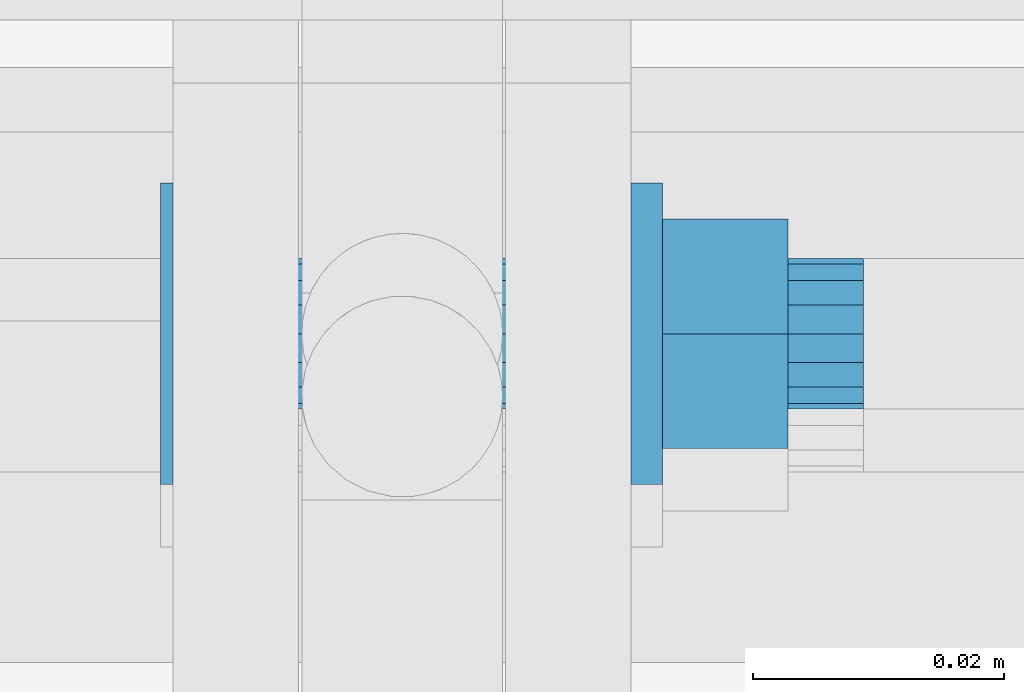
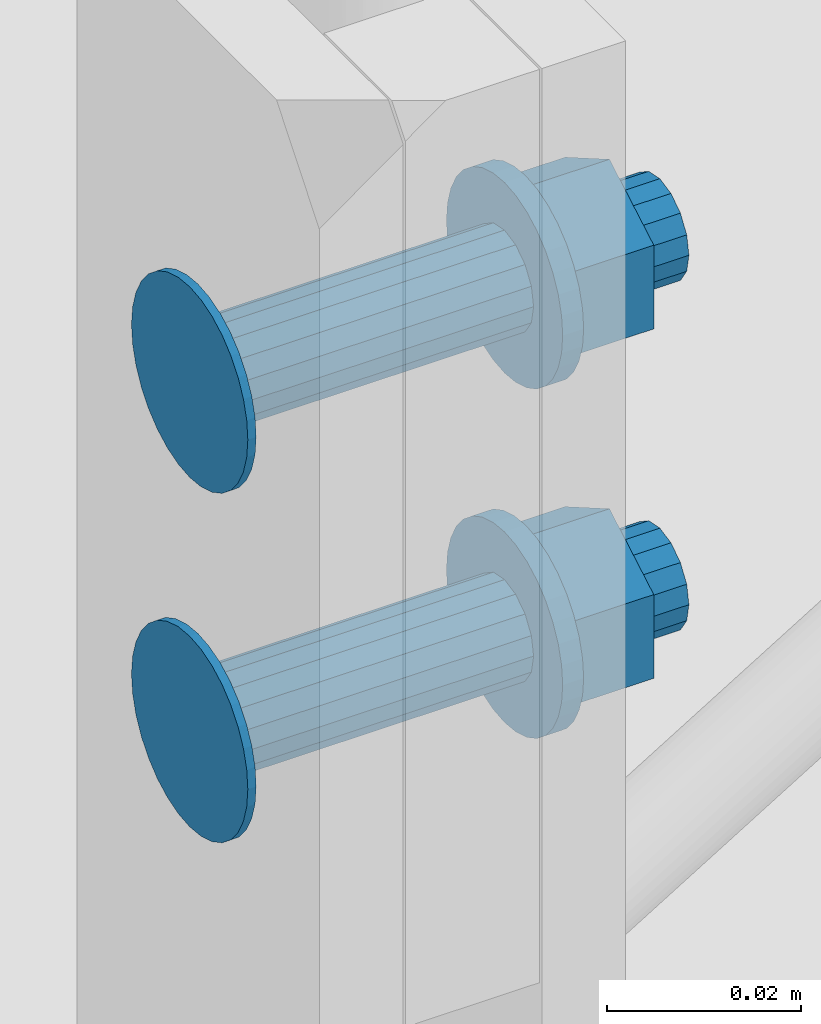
# One storey, part 89 of 98: 1 mechanical fastener.
"""IFC2X3 building model written with IfcOpenShell, lengths in millimetres."""

from ifc_helpers import new_model, entity, si_unit, converted_unit, origin_with_axes, place, context, project, spatial, faceted_brep, element, save


model = new_model("IFC2X3")

# Units and contexts
model_context = context("Model", 3, precision=1e-09, world=origin_with_axes())
ifc_project = project(units=[si_unit("LENGTHUNIT", "METRE", prefix="MILLI"), si_unit("AREAUNIT", "SQUARE_METRE"), si_unit("VOLUMEUNIT", "CUBIC_METRE"), converted_unit("PLANEANGLEUNIT", "DEGREE", entity("IfcPlaneAngleMeasure", 0.01745329), si_unit("PLANEANGLEUNIT", "RADIAN"), dimensions=[0, 0, 0, 0, 0, 0, 0])], contexts=[model_context])

# Site, building, storey
site_placement = place(None, origin_with_axes())
site = spatial("IfcSite", under=ifc_project, at=site_placement, Name="Maybachstra?e 2, 71563 Affalterbach", CompositionType="ELEMENT")
building_placement = place(site_placement, origin_with_axes())
building = spatial("IfcBuilding", under=site, at=building_placement, Name="Struktur 1", CompositionType="ELEMENT")
storey_placement = place(building_placement, origin_with_axes())
storey = spatial("IfcBuildingStorey", under=building, at=storey_placement, Name="Default Storey", CompositionType="ELEMENT", Elevation=0.0)

# Mechanical fastener
mechanical_fastener_placement = place(None, origin_with_axes())
element("IfcMechanicalFastener", 1, at=mechanical_fastener_placement, inside=storey, ObjectType="-", NominalDiameter=12.0, NominalLength=55.0, context=model_context, shape_type="Brep", body=[
    faceted_brep([(11356.779157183, -52.0, 3663.682336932), (11355.779157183, -52.0, 3663.682336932), (11355.779157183, -51.769423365, 3661.341253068), (11356.779157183, -51.769423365, 3661.341253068), (11355.779157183, -51.08655439, 3659.090135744), (11356.779157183, -51.08655439, 3659.090135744), (11355.779157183, -49.977635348, 3657.015494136), (11356.779157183, -49.977635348, 3657.015494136), (11355.779157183, -48.485281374, 3655.197055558), (11356.779157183, -48.485281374, 3655.197055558), (11355.779157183, -46.666842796, 3653.704701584), (11356.779157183, -46.666842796, 3653.704701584), (11355.779157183, -44.592201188, 3652.595782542), (11356.779157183, -44.592201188, 3652.595782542), (11355.779157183, -42.341083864, 3651.912913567), (11356.779157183, -42.341083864, 3651.912913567), (11355.779157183, -40.0, 3651.682336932), (11356.779157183, -40.0, 3651.682336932), (11355.779157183, -37.658916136, 3651.912913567), (11356.779157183, -37.658916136, 3651.912913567), (11355.779157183, -35.407798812, 3652.595782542), (11356.779157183, -35.407798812, 3652.595782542), (11355.779157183, -33.333157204, 3653.704701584), (11356.779157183, -33.333157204, 3653.704701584), (11355.779157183, -31.514718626, 3655.197055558), (11356.779157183, -31.514718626, 3655.197055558), (11355.779157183, -30.022364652, 3657.015494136), (11356.779157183, -30.022364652, 3657.015494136), (11355.779157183, -28.91344561, 3659.090135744), (11356.779157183, -28.91344561, 3659.090135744), (11355.779157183, -28.230576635, 3661.341253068), (11356.779157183, -28.230576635, 3661.341253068), (11355.779157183, -28.0, 3663.682336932), (11356.779157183, -28.0, 3663.682336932), (11355.779157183, -28.230576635, 3666.023420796), (11356.779157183, -28.230576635, 3666.023420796), (11355.779157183, -28.91344561, 3668.27453812), (11356.779157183, -28.91344561, 3668.27453812), (11355.779157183, -30.022364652, 3670.349179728), (11356.779157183, -30.022364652, 3670.349179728), (11355.779157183, -31.514718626, 3672.167618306), (11356.779157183, -31.514718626, 3672.167618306), (11355.779157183, -33.333157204, 3673.65997228), (11356.779157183, -33.333157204, 3673.65997228), (11355.779157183, -35.407798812, 3674.768891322), (11356.779157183, -35.407798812, 3674.768891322), (11355.779157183, -37.658916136, 3675.451760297), (11356.779157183, -37.658916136, 3675.451760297), (11355.779157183, -40.0, 3675.682336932), (11356.779157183, -40.0, 3675.682336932), (11355.779157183, -42.341083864, 3675.451760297), (11356.779157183, -42.341083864, 3675.451760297), (11355.779157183, -44.592201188, 3674.768891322), (11356.779157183, -44.592201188, 3674.768891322), (11355.779157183, -46.666842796, 3673.65997228), (11356.779157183, -46.666842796, 3673.65997228), (11355.779157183, -48.485281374, 3672.167618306), (11356.779157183, -48.485281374, 3672.167618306), (11355.779157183, -49.977635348, 3670.349179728), (11356.779157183, -49.977635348, 3670.349179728), (11355.779157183, -51.08655439, 3668.27453812), (11356.779157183, -51.08655439, 3668.27453812), (11355.779157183, -51.769423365, 3666.023420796), (11356.779157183, -51.769423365, 3666.023420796)], [[[0, 1, 2, 3]], [[3, 2, 4, 5]], [[5, 4, 6, 7]], [[7, 6, 8, 9]], [[9, 8, 10, 11]], [[11, 10, 12, 13]], [[13, 12, 14, 15]], [[15, 14, 16, 17]], [[17, 16, 18, 19]], [[19, 18, 20, 21]], [[21, 20, 22, 23]], [[23, 22, 24, 25]], [[25, 24, 26, 27]], [[27, 26, 28, 29]], [[29, 28, 30, 31]], [[31, 30, 32, 33]], [[33, 32, 34, 35]], [[35, 34, 36, 37]], [[37, 36, 38, 39]], [[39, 38, 40, 41]], [[41, 40, 42, 43]], [[43, 42, 44, 45]], [[45, 44, 46, 47]], [[47, 46, 48, 49]], [[49, 48, 50, 51]], [[51, 50, 52, 53]], [[53, 52, 54, 55]], [[55, 54, 56, 57]], [[57, 56, 58, 59]], [[59, 58, 60, 61]], [[61, 60, 62, 63]], [[63, 62, 1, 0]], [[2, 1, 62, 60, 58, 56, 54, 52, 50, 48, 46, 44, 42, 40, 38, 36, 34, 32, 30, 28, 26, 24, 22, 20, 18, 16, 14, 12, 10, 8, 6, 4]], [[63, 0, 3, 5, 7, 9, 11, 13, 15, 17, 19, 21, 23, 25, 27, 29, 31, 33, 35, 37, 39, 41, 43, 45, 47, 49, 51, 53, 55, 57, 59, 61]]]),
    faceted_brep([(11356.779157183, -52.0, 3619.682336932), (11355.779157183, -52.0, 3619.682336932), (11355.779157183, -51.769423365, 3617.341253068), (11356.779157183, -51.769423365, 3617.341253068), (11355.779157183, -51.08655439, 3615.090135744), (11356.779157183, -51.08655439, 3615.090135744), (11355.779157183, -49.977635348, 3613.015494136), (11356.779157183, -49.977635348, 3613.015494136), (11355.779157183, -48.485281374, 3611.197055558), (11356.779157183, -48.485281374, 3611.197055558), (11355.779157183, -46.666842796, 3609.704701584), (11356.779157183, -46.666842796, 3609.704701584), (11355.779157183, -44.592201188, 3608.595782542), (11356.779157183, -44.592201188, 3608.595782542), (11355.779157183, -42.341083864, 3607.912913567), (11356.779157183, -42.341083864, 3607.912913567), (11355.779157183, -40.0, 3607.682336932), (11356.779157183, -40.0, 3607.682336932), (11355.779157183, -37.658916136, 3607.912913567), (11356.779157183, -37.658916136, 3607.912913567), (11355.779157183, -35.407798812, 3608.595782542), (11356.779157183, -35.407798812, 3608.595782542), (11355.779157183, -33.333157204, 3609.704701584), (11356.779157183, -33.333157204, 3609.704701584), (11355.779157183, -31.514718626, 3611.197055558), (11356.779157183, -31.514718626, 3611.197055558), (11355.779157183, -30.022364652, 3613.015494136), (11356.779157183, -30.022364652, 3613.015494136), (11355.779157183, -28.91344561, 3615.090135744), (11356.779157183, -28.91344561, 3615.090135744), (11355.779157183, -28.230576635, 3617.341253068), (11356.779157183, -28.230576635, 3617.341253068), (11355.779157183, -28.0, 3619.682336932), (11356.779157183, -28.0, 3619.682336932), (11355.779157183, -28.230576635, 3622.023420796), (11356.779157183, -28.230576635, 3622.023420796), (11355.779157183, -28.91344561, 3624.27453812), (11356.779157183, -28.91344561, 3624.27453812), (11355.779157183, -30.022364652, 3626.349179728), (11356.779157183, -30.022364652, 3626.349179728), (11355.779157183, -31.514718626, 3628.167618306), (11356.779157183, -31.514718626, 3628.167618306), (11355.779157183, -33.333157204, 3629.65997228), (11356.779157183, -33.333157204, 3629.65997228), (11355.779157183, -35.407798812, 3630.768891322), (11356.779157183, -35.407798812, 3630.768891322), (11355.779157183, -37.658916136, 3631.451760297), (11356.779157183, -37.658916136, 3631.451760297), (11355.779157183, -40.0, 3631.682336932), (11356.779157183, -40.0, 3631.682336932), (11355.779157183, -42.341083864, 3631.451760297), (11356.779157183, -42.341083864, 3631.451760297), (11355.779157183, -44.592201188, 3630.768891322), (11356.779157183, -44.592201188, 3630.768891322), (11355.779157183, -46.666842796, 3629.65997228), (11356.779157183, -46.666842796, 3629.65997228), (11355.779157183, -48.485281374, 3628.167618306), (11356.779157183, -48.485281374, 3628.167618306), (11355.779157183, -49.977635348, 3626.349179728), (11356.779157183, -49.977635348, 3626.349179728), (11355.779157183, -51.08655439, 3624.27453812), (11356.779157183, -51.08655439, 3624.27453812), (11355.779157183, -51.769423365, 3622.023420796), (11356.779157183, -51.769423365, 3622.023420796)], [[[0, 1, 2, 3]], [[3, 2, 4, 5]], [[5, 4, 6, 7]], [[7, 6, 8, 9]], [[9, 8, 10, 11]], [[11, 10, 12, 13]], [[13, 12, 14, 15]], [[15, 14, 16, 17]], [[17, 16, 18, 19]], [[19, 18, 20, 21]], [[21, 20, 22, 23]], [[23, 22, 24, 25]], [[25, 24, 26, 27]], [[27, 26, 28, 29]], [[29, 28, 30, 31]], [[31, 30, 32, 33]], [[33, 32, 34, 35]], [[35, 34, 36, 37]], [[37, 36, 38, 39]], [[39, 38, 40, 41]], [[41, 40, 42, 43]], [[43, 42, 44, 45]], [[45, 44, 46, 47]], [[47, 46, 48, 49]], [[49, 48, 50, 51]], [[51, 50, 52, 53]], [[53, 52, 54, 55]], [[55, 54, 56, 57]], [[57, 56, 58, 59]], [[59, 58, 60, 61]], [[61, 60, 62, 63]], [[63, 62, 1, 0]], [[2, 1, 62, 60, 58, 56, 54, 52, 50, 48, 46, 44, 42, 40, 38, 36, 34, 32, 30, 28, 26, 24, 22, 20, 18, 16, 14, 12, 10, 8, 6, 4]], [[63, 0, 3, 5, 7, 9, 11, 13, 15, 17, 19, 21, 23, 25, 27, 29, 31, 33, 35, 37, 39, 41, 43, 45, 47, 49, 51, 53, 55, 57, 59, 61]]]),
    faceted_brep([(11393.279157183, -46.0, 3663.682336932), (11356.779157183, -46.0, 3663.682336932), (11356.779157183, -45.543277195, 3661.386236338), (11393.279157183, -45.543277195, 3661.386236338), (11356.779157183, -44.242640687, 3659.439696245), (11393.279157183, -44.242640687, 3659.439696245), (11356.779157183, -42.296100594, 3658.139059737), (11393.279157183, -42.296100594, 3658.139059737), (11356.779157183, -40.0, 3657.682336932), (11393.279157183, -40.0, 3657.682336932), (11356.779157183, -37.703899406, 3658.139059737), (11393.279157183, -37.703899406, 3658.139059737), (11356.779157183, -35.757359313, 3659.439696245), (11393.279157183, -35.757359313, 3659.439696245), (11356.779157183, -34.456722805, 3661.386236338), (11393.279157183, -34.456722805, 3661.386236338), (11356.779157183, -34.0, 3663.682336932), (11393.279157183, -34.0, 3663.682336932), (11356.779157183, -34.456722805, 3665.978437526), (11393.279157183, -34.456722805, 3665.978437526), (11356.779157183, -35.757359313, 3667.924977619), (11393.279157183, -35.757359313, 3667.924977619), (11356.779157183, -37.703899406, 3669.225614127), (11393.279157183, -37.703899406, 3669.225614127), (11356.779157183, -40.0, 3669.682336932), (11393.279157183, -40.0, 3669.682336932), (11356.779157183, -42.296100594, 3669.225614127), (11393.279157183, -42.296100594, 3669.225614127), (11356.779157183, -44.242640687, 3667.924977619), (11393.279157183, -44.242640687, 3667.924977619), (11356.779157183, -45.543277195, 3665.978437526), (11393.279157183, -45.543277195, 3665.978437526)], [[[0, 1, 2, 3]], [[3, 2, 4, 5]], [[5, 4, 6, 7]], [[7, 6, 8, 9]], [[9, 8, 10, 11]], [[11, 10, 12, 13]], [[13, 12, 14, 15]], [[15, 14, 16, 17]], [[17, 16, 18, 19]], [[19, 18, 20, 21]], [[21, 20, 22, 23]], [[23, 22, 24, 25]], [[25, 24, 26, 27]], [[27, 26, 28, 29]], [[29, 28, 30, 31]], [[31, 30, 1, 0]], [[2, 1, 30, 28, 26, 24, 22, 20, 18, 16, 14, 12, 10, 8, 6, 4]], [[31, 0, 3, 5, 7, 9, 11, 13, 15, 17, 19, 21, 23, 25, 27, 29]]]),
    faceted_brep([(11393.279157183, -46.0, 3619.682336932), (11356.779157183, -46.0, 3619.682336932), (11356.779157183, -45.543277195, 3617.386236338), (11393.279157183, -45.543277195, 3617.386236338), (11356.779157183, -44.242640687, 3615.439696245), (11393.279157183, -44.242640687, 3615.439696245), (11356.779157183, -42.296100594, 3614.139059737), (11393.279157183, -42.296100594, 3614.139059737), (11356.779157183, -40.0, 3613.682336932), (11393.279157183, -40.0, 3613.682336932), (11356.779157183, -37.703899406, 3614.139059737), (11393.279157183, -37.703899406, 3614.139059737), (11356.779157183, -35.757359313, 3615.439696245), (11393.279157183, -35.757359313, 3615.439696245), (11356.779157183, -34.456722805, 3617.386236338), (11393.279157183, -34.456722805, 3617.386236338), (11356.779157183, -34.0, 3619.682336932), (11393.279157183, -34.0, 3619.682336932), (11356.779157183, -34.456722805, 3621.978437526), (11393.279157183, -34.456722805, 3621.978437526), (11356.779157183, -35.757359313, 3623.924977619), (11393.279157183, -35.757359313, 3623.924977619), (11356.779157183, -37.703899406, 3625.225614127), (11393.279157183, -37.703899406, 3625.225614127), (11356.779157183, -40.0, 3625.682336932), (11393.279157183, -40.0, 3625.682336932), (11356.779157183, -42.296100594, 3625.225614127), (11393.279157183, -42.296100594, 3625.225614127), (11356.779157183, -44.242640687, 3623.924977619), (11393.279157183, -44.242640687, 3623.924977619), (11356.779157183, -45.543277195, 3621.978437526), (11393.279157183, -45.543277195, 3621.978437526)], [[[0, 1, 2, 3]], [[3, 2, 4, 5]], [[5, 4, 6, 7]], [[7, 6, 8, 9]], [[9, 8, 10, 11]], [[11, 10, 12, 13]], [[13, 12, 14, 15]], [[15, 14, 16, 17]], [[17, 16, 18, 19]], [[19, 18, 20, 21]], [[21, 20, 22, 23]], [[23, 22, 24, 25]], [[25, 24, 26, 27]], [[27, 26, 28, 29]], [[29, 28, 30, 31]], [[31, 30, 1, 0]], [[2, 1, 30, 28, 26, 24, 22, 20, 18, 16, 14, 12, 10, 8, 6, 4]], [[31, 0, 3, 5, 7, 9, 11, 13, 15, 17, 19, 21, 23, 25, 27, 29]]]),
    faceted_brep([(11395.779157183, -52.0, 3663.682336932), (11393.279157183, -52.0, 3663.682336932), (11393.279157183, -51.769423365, 3661.341253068), (11395.779157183, -51.769423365, 3661.341253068), (11393.279157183, -51.08655439, 3659.090135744), (11395.779157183, -51.08655439, 3659.090135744), (11393.279157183, -49.977635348, 3657.015494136), (11395.779157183, -49.977635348, 3657.015494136), (11393.279157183, -48.485281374, 3655.197055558), (11395.779157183, -48.485281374, 3655.197055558), (11393.279157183, -46.666842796, 3653.704701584), (11395.779157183, -46.666842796, 3653.704701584), (11393.279157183, -44.592201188, 3652.595782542), (11395.779157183, -44.592201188, 3652.595782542), (11393.279157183, -42.341083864, 3651.912913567), (11395.779157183, -42.341083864, 3651.912913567), (11393.279157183, -40.0, 3651.682336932), (11395.779157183, -40.0, 3651.682336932), (11393.279157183, -37.658916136, 3651.912913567), (11395.779157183, -37.658916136, 3651.912913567), (11393.279157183, -35.407798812, 3652.595782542), (11395.779157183, -35.407798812, 3652.595782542), (11393.279157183, -33.333157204, 3653.704701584), (11395.779157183, -33.333157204, 3653.704701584), (11393.279157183, -31.514718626, 3655.197055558), (11395.779157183, -31.514718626, 3655.197055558), (11393.279157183, -30.022364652, 3657.015494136), (11395.779157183, -30.022364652, 3657.015494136), (11393.279157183, -28.91344561, 3659.090135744), (11395.779157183, -28.91344561, 3659.090135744), (11393.279157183, -28.230576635, 3661.341253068), (11395.779157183, -28.230576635, 3661.341253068), (11393.279157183, -28.0, 3663.682336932), (11395.779157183, -28.0, 3663.682336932), (11393.279157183, -28.230576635, 3666.023420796), (11395.779157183, -28.230576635, 3666.023420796), (11393.279157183, -28.91344561, 3668.27453812), (11395.779157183, -28.91344561, 3668.27453812), (11393.279157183, -30.022364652, 3670.349179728), (11395.779157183, -30.022364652, 3670.349179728), (11393.279157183, -31.514718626, 3672.167618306), (11395.779157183, -31.514718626, 3672.167618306), (11393.279157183, -33.333157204, 3673.65997228), (11395.779157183, -33.333157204, 3673.65997228), (11393.279157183, -35.407798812, 3674.768891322), (11395.779157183, -35.407798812, 3674.768891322), (11393.279157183, -37.658916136, 3675.451760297), (11395.779157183, -37.658916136, 3675.451760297), (11393.279157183, -40.0, 3675.682336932), (11395.779157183, -40.0, 3675.682336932), (11393.279157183, -42.341083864, 3675.451760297), (11395.779157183, -42.341083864, 3675.451760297), (11393.279157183, -44.592201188, 3674.768891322), (11395.779157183, -44.592201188, 3674.768891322), (11393.279157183, -46.666842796, 3673.65997228), (11395.779157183, -46.666842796, 3673.65997228), (11393.279157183, -48.485281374, 3672.167618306), (11395.779157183, -48.485281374, 3672.167618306), (11393.279157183, -49.977635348, 3670.349179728), (11395.779157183, -49.977635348, 3670.349179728), (11393.279157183, -51.08655439, 3668.27453812), (11395.779157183, -51.08655439, 3668.27453812), (11393.279157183, -51.769423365, 3666.023420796), (11395.779157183, -51.769423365, 3666.023420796)], [[[0, 1, 2, 3]], [[3, 2, 4, 5]], [[5, 4, 6, 7]], [[7, 6, 8, 9]], [[9, 8, 10, 11]], [[11, 10, 12, 13]], [[13, 12, 14, 15]], [[15, 14, 16, 17]], [[17, 16, 18, 19]], [[19, 18, 20, 21]], [[21, 20, 22, 23]], [[23, 22, 24, 25]], [[25, 24, 26, 27]], [[27, 26, 28, 29]], [[29, 28, 30, 31]], [[31, 30, 32, 33]], [[33, 32, 34, 35]], [[35, 34, 36, 37]], [[37, 36, 38, 39]], [[39, 38, 40, 41]], [[41, 40, 42, 43]], [[43, 42, 44, 45]], [[45, 44, 46, 47]], [[47, 46, 48, 49]], [[49, 48, 50, 51]], [[51, 50, 52, 53]], [[53, 52, 54, 55]], [[55, 54, 56, 57]], [[57, 56, 58, 59]], [[59, 58, 60, 61]], [[61, 60, 62, 63]], [[63, 62, 1, 0]], [[2, 1, 62, 60, 58, 56, 54, 52, 50, 48, 46, 44, 42, 40, 38, 36, 34, 32, 30, 28, 26, 24, 22, 20, 18, 16, 14, 12, 10, 8, 6, 4]], [[63, 0, 3, 5, 7, 9, 11, 13, 15, 17, 19, 21, 23, 25, 27, 29, 31, 33, 35, 37, 39, 41, 43, 45, 47, 49, 51, 53, 55, 57, 59, 61]]]),
    faceted_brep([(11395.779157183, -52.0, 3619.682336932), (11393.279157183, -52.0, 3619.682336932), (11393.279157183, -51.769423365, 3617.341253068), (11395.779157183, -51.769423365, 3617.341253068), (11393.279157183, -51.08655439, 3615.090135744), (11395.779157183, -51.08655439, 3615.090135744), (11393.279157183, -49.977635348, 3613.015494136), (11395.779157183, -49.977635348, 3613.015494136), (11393.279157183, -48.485281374, 3611.197055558), (11395.779157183, -48.485281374, 3611.197055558), (11393.279157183, -46.666842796, 3609.704701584), (11395.779157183, -46.666842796, 3609.704701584), (11393.279157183, -44.592201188, 3608.595782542), (11395.779157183, -44.592201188, 3608.595782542), (11393.279157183, -42.341083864, 3607.912913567), (11395.779157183, -42.341083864, 3607.912913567), (11393.279157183, -40.0, 3607.682336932), (11395.779157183, -40.0, 3607.682336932), (11393.279157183, -37.658916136, 3607.912913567), (11395.779157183, -37.658916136, 3607.912913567), (11393.279157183, -35.407798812, 3608.595782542), (11395.779157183, -35.407798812, 3608.595782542), (11393.279157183, -33.333157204, 3609.704701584), (11395.779157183, -33.333157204, 3609.704701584), (11393.279157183, -31.514718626, 3611.197055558), (11395.779157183, -31.514718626, 3611.197055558), (11393.279157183, -30.022364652, 3613.015494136), (11395.779157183, -30.022364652, 3613.015494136), (11393.279157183, -28.91344561, 3615.090135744), (11395.779157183, -28.91344561, 3615.090135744), (11393.279157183, -28.230576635, 3617.341253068), (11395.779157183, -28.230576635, 3617.341253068), (11393.279157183, -28.0, 3619.682336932), (11395.779157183, -28.0, 3619.682336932), (11393.279157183, -28.230576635, 3622.023420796), (11395.779157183, -28.230576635, 3622.023420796), (11393.279157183, -28.91344561, 3624.27453812), (11395.779157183, -28.91344561, 3624.27453812), (11393.279157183, -30.022364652, 3626.349179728), (11395.779157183, -30.022364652, 3626.349179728), (11393.279157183, -31.514718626, 3628.167618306), (11395.779157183, -31.514718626, 3628.167618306), (11393.279157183, -33.333157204, 3629.65997228), (11395.779157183, -33.333157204, 3629.65997228), (11393.279157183, -35.407798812, 3630.768891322), (11395.779157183, -35.407798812, 3630.768891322), (11393.279157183, -37.658916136, 3631.451760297), (11395.779157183, -37.658916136, 3631.451760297), (11393.279157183, -40.0, 3631.682336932), (11395.779157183, -40.0, 3631.682336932), (11393.279157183, -42.341083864, 3631.451760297), (11395.779157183, -42.341083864, 3631.451760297), (11393.279157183, -44.592201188, 3630.768891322), (11395.779157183, -44.592201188, 3630.768891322), (11393.279157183, -46.666842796, 3629.65997228), (11395.779157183, -46.666842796, 3629.65997228), (11393.279157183, -48.485281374, 3628.167618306), (11395.779157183, -48.485281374, 3628.167618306), (11393.279157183, -49.977635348, 3626.349179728), (11395.779157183, -49.977635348, 3626.349179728), (11393.279157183, -51.08655439, 3624.27453812), (11395.779157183, -51.08655439, 3624.27453812), (11393.279157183, -51.769423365, 3622.023420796), (11395.779157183, -51.769423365, 3622.023420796)], [[[0, 1, 2, 3]], [[3, 2, 4, 5]], [[5, 4, 6, 7]], [[7, 6, 8, 9]], [[9, 8, 10, 11]], [[11, 10, 12, 13]], [[13, 12, 14, 15]], [[15, 14, 16, 17]], [[17, 16, 18, 19]], [[19, 18, 20, 21]], [[21, 20, 22, 23]], [[23, 22, 24, 25]], [[25, 24, 26, 27]], [[27, 26, 28, 29]], [[29, 28, 30, 31]], [[31, 30, 32, 33]], [[33, 32, 34, 35]], [[35, 34, 36, 37]], [[37, 36, 38, 39]], [[39, 38, 40, 41]], [[41, 40, 42, 43]], [[43, 42, 44, 45]], [[45, 44, 46, 47]], [[47, 46, 48, 49]], [[49, 48, 50, 51]], [[51, 50, 52, 53]], [[53, 52, 54, 55]], [[55, 54, 56, 57]], [[57, 56, 58, 59]], [[59, 58, 60, 61]], [[61, 60, 62, 63]], [[63, 62, 1, 0]], [[2, 1, 62, 60, 58, 56, 54, 52, 50, 48, 46, 44, 42, 40, 38, 36, 34, 32, 30, 28, 26, 24, 22, 20, 18, 16, 14, 12, 10, 8, 6, 4]], [[63, 0, 3, 5, 7, 9, 11, 13, 15, 17, 19, 21, 23, 25, 27, 29, 31, 33, 35, 37, 39, 41, 43, 45, 47, 49, 51, 53, 55, 57, 59, 61]]]),
    faceted_brep([(11395.779157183, -30.86343199, 3658.407336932), (11405.779157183, -30.86343199, 3658.407336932), (11405.779157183, -40.0, 3653.132336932), (11395.779157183, -40.0, 3653.132336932), (11405.779157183, -49.13656801, 3658.407336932), (11395.779157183, -49.13656801, 3658.407336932), (11405.779157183, -49.13656801, 3668.957336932), (11395.779157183, -49.13656801, 3668.957336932), (11405.779157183, -40.0, 3674.232336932), (11395.779157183, -40.0, 3674.232336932), (11405.779157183, -30.86343199, 3668.957336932), (11395.779157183, -30.86343199, 3668.957336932)], [[[0, 1, 2, 3]], [[3, 2, 4, 5]], [[5, 4, 6, 7]], [[7, 6, 8, 9]], [[9, 8, 10, 11]], [[11, 10, 1, 0]], [[3, 5, 7, 9, 11, 0]], [[2, 1, 10, 8, 6, 4]]]),
    faceted_brep([(11395.779157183, -30.86343199, 3614.407336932), (11405.779157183, -30.86343199, 3614.407336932), (11405.779157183, -40.0, 3609.132336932), (11395.779157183, -40.0, 3609.132336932), (11405.779157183, -49.13656801, 3614.407336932), (11395.779157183, -49.13656801, 3614.407336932), (11405.779157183, -49.13656801, 3624.957336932), (11395.779157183, -49.13656801, 3624.957336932), (11405.779157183, -40.0, 3630.232336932), (11395.779157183, -40.0, 3630.232336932), (11405.779157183, -30.86343199, 3624.957336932), (11395.779157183, -30.86343199, 3624.957336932)], [[[0, 1, 2, 3]], [[3, 2, 4, 5]], [[5, 4, 6, 7]], [[7, 6, 8, 9]], [[9, 8, 10, 11]], [[11, 10, 1, 0]], [[3, 5, 7, 9, 11, 0]], [[2, 1, 10, 8, 6, 4]]]),
    faceted_brep([(11411.779157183, -46.0, 3663.682336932), (11405.779157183, -46.0, 3663.682336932), (11405.779157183, -45.543277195, 3661.386236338), (11411.779157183, -45.543277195, 3661.386236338), (11405.779157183, -44.242640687, 3659.439696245), (11411.779157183, -44.242640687, 3659.439696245), (11405.779157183, -42.296100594, 3658.139059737), (11411.779157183, -42.296100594, 3658.139059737), (11405.779157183, -40.0, 3657.682336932), (11411.779157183, -40.0, 3657.682336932), (11405.779157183, -37.703899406, 3658.139059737), (11411.779157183, -37.703899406, 3658.139059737), (11405.779157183, -35.757359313, 3659.439696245), (11411.779157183, -35.757359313, 3659.439696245), (11405.779157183, -34.456722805, 3661.386236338), (11411.779157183, -34.456722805, 3661.386236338), (11405.779157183, -34.0, 3663.682336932), (11411.779157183, -34.0, 3663.682336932), (11405.779157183, -34.456722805, 3665.978437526), (11411.779157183, -34.456722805, 3665.978437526), (11405.779157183, -35.757359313, 3667.924977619), (11411.779157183, -35.757359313, 3667.924977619), (11405.779157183, -37.703899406, 3669.225614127), (11411.779157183, -37.703899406, 3669.225614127), (11405.779157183, -40.0, 3669.682336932), (11411.779157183, -40.0, 3669.682336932), (11405.779157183, -42.296100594, 3669.225614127), (11411.779157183, -42.296100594, 3669.225614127), (11405.779157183, -44.242640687, 3667.924977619), (11411.779157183, -44.242640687, 3667.924977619), (11405.779157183, -45.543277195, 3665.978437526), (11411.779157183, -45.543277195, 3665.978437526)], [[[0, 1, 2, 3]], [[3, 2, 4, 5]], [[5, 4, 6, 7]], [[7, 6, 8, 9]], [[9, 8, 10, 11]], [[11, 10, 12, 13]], [[13, 12, 14, 15]], [[15, 14, 16, 17]], [[17, 16, 18, 19]], [[19, 18, 20, 21]], [[21, 20, 22, 23]], [[23, 22, 24, 25]], [[25, 24, 26, 27]], [[27, 26, 28, 29]], [[29, 28, 30, 31]], [[31, 30, 1, 0]], [[2, 1, 30, 28, 26, 24, 22, 20, 18, 16, 14, 12, 10, 8, 6, 4]], [[31, 0, 3, 5, 7, 9, 11, 13, 15, 17, 19, 21, 23, 25, 27, 29]]]),
    faceted_brep([(11411.779157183, -46.0, 3619.682336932), (11405.779157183, -46.0, 3619.682336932), (11405.779157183, -45.543277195, 3617.386236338), (11411.779157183, -45.543277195, 3617.386236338), (11405.779157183, -44.242640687, 3615.439696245), (11411.779157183, -44.242640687, 3615.439696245), (11405.779157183, -42.296100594, 3614.139059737), (11411.779157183, -42.296100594, 3614.139059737), (11405.779157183, -40.0, 3613.682336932), (11411.779157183, -40.0, 3613.682336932), (11405.779157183, -37.703899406, 3614.139059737), (11411.779157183, -37.703899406, 3614.139059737), (11405.779157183, -35.757359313, 3615.439696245), (11411.779157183, -35.757359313, 3615.439696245), (11405.779157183, -34.456722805, 3617.386236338), (11411.779157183, -34.456722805, 3617.386236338), (11405.779157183, -34.0, 3619.682336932), (11411.779157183, -34.0, 3619.682336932), (11405.779157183, -34.456722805, 3621.978437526), (11411.779157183, -34.456722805, 3621.978437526), (11405.779157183, -35.757359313, 3623.924977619), (11411.779157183, -35.757359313, 3623.924977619), (11405.779157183, -37.703899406, 3625.225614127), (11411.779157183, -37.703899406, 3625.225614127), (11405.779157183, -40.0, 3625.682336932), (11411.779157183, -40.0, 3625.682336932), (11405.779157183, -42.296100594, 3625.225614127), (11411.779157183, -42.296100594, 3625.225614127), (11405.779157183, -44.242640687, 3623.924977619), (11411.779157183, -44.242640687, 3623.924977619), (11405.779157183, -45.543277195, 3621.978437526), (11411.779157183, -45.543277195, 3621.978437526)], [[[0, 1, 2, 3]], [[3, 2, 4, 5]], [[5, 4, 6, 7]], [[7, 6, 8, 9]], [[9, 8, 10, 11]], [[11, 10, 12, 13]], [[13, 12, 14, 15]], [[15, 14, 16, 17]], [[17, 16, 18, 19]], [[19, 18, 20, 21]], [[21, 20, 22, 23]], [[23, 22, 24, 25]], [[25, 24, 26, 27]], [[27, 26, 28, 29]], [[29, 28, 30, 31]], [[31, 30, 1, 0]], [[2, 1, 30, 28, 26, 24, 22, 20, 18, 16, 14, 12, 10, 8, 6, 4]], [[31, 0, 3, 5, 7, 9, 11, 13, 15, 17, 19, 21, 23, 25, 27, 29]]]),
])

save(model, "model.ifc")
